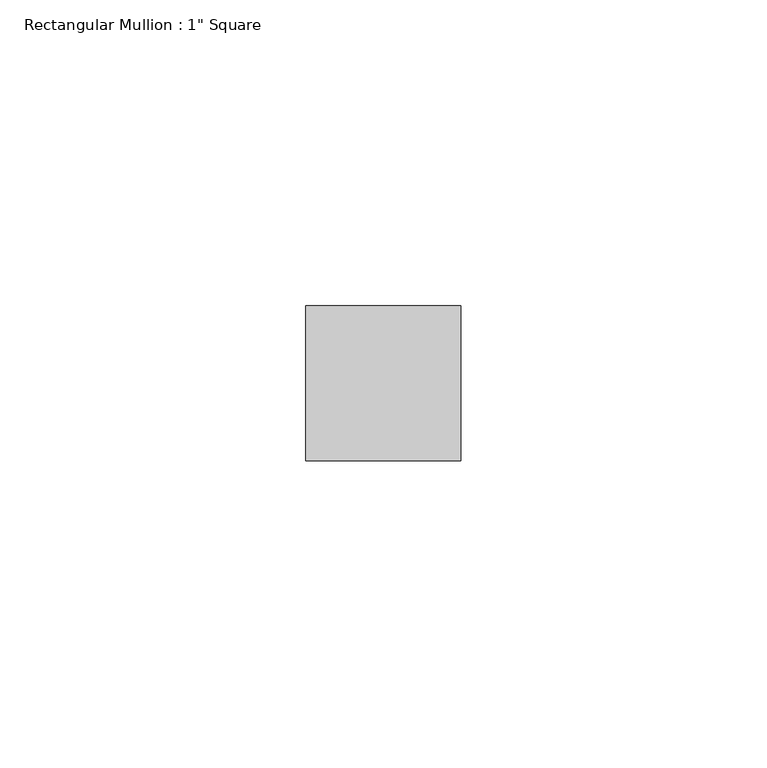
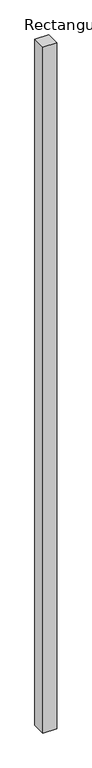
"""IFC4 building model written with IfcOpenShell, lengths in millimetres: member geometry."""

from ifc_helpers import new_model, si_unit, frame, origin, place, context, project, spatial, polyline, outline, extrude, source, transform, mapped, element, save


def member_9c203333(model_context):
    return source(origin(), model_context, "Body", "SweptSolid", [
        extrude(outline(polyline([(0.0, 12.7), (0.0, -12.7), (-25.4, -12.7), (-25.4, 12.7), (0.0, 12.7)])), frame((0.0, 0.0, -1328.1853699), z_axis=(0.0, 0.0, 1.0), x_axis=(1.0, 0.0, 0.0)), (0.0, 0.0, 1.0), 1328.1853699),
    ])


if __name__ == "__main__":
    model = new_model("IFC4")
    model_context = context("Model", 3, world=origin())
    ifc_project = project(units=[si_unit("LENGTHUNIT", "METRE", prefix="MILLI")], contexts=[model_context])
    site = spatial("IfcSite", under=ifc_project)
    building = spatial("IfcBuilding", under=site)
    placement = place(None, origin())
    member_shape = member_9c203333(model_context)
    element("IfcMember", 1, ObjectType="Rectangular Mullion : 1\" Square", at=placement, inside=building, context=model_context, shape_type="MappedRepresentation", body=[
        mapped(member_shape, transform((0.0, 0.0, 0.0), x_axis=(1.0, 0.0, 0.0), y_axis=(0.0, 1.0, 0.0), z_axis=(0.0, 0.0, 1.0))),
    ])
    save(model, "model.ifc")
